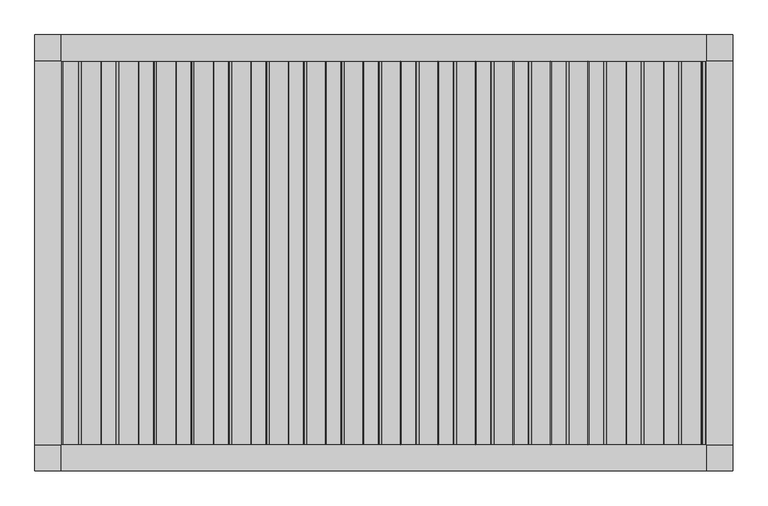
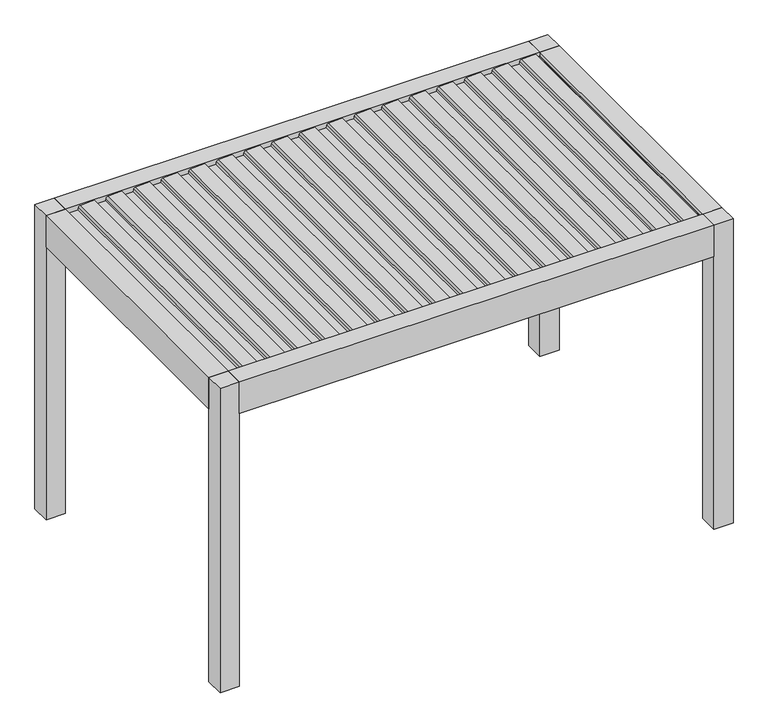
"""IFC4 building model written with IfcOpenShell, lengths in millimetres: proxy geometry, Renson_Camargue_Freestanding_Patio covers : Renson_Camargue_Freestanding_Patio covers."""

from ifc_helpers import new_model, si_unit, point, frame, frame_2d, origin, origin_with_axes, place, context, project, spatial, polyline, circle_curve, trimmed, segment, composite_curve, outline, extrude, source, transform, mapped, element, save


def generic_models_9b0df196(model_context):
    return source(origin(), model_context, "Body", "SweptSolid", [
        extrude(outline(composite_curve([segment(polyline([(2458.35, 1573.7338351), (2486.01198, 1576.1539448), (2487.3970364, 1604.9891952), (2506.8911096, 1601.5518641), (2501.6075693, 1491.5547493)]), True, "CONTINUOUS"), segment(trimmed(circle_curve(frame_2d((2486.6248435, 1492.2744212)), 15.0), [point((2501.6075693, 1491.5547493))], [point((2489.2295662, 1477.5023049))], False, "CARTESIAN"), True, "CONTINUOUS"), segment(polyline([(2489.2295662, 1477.5023049), (2470.0, 1474.1116136), (2470.0, 1386.3758376), (2487.0788237, 1383.3643801), (2486.3450182, 1368.0874097), (2458.35, 1365.6381629), (2458.35, 1573.7338351)]), True, "CONTINUOUS")], self_intersect=False)), frame((0.0, -1100.0, 0.0), z_axis=(0.0, 1.0, 0.0), x_axis=(0.0, 0.0, 1.0)), (0.0, 0.0, 1.0), 2200.0),
        extrude(outline(composite_curve([segment(polyline([(2458.35, 1358.7230303), (2486.01198, 1361.14314), (2487.3970364, 1389.9783904), (2506.8911096, 1386.5410594), (2501.6075693, 1276.5439445)]), True, "CONTINUOUS"), segment(trimmed(circle_curve(frame_2d((2486.6248435, 1277.2636164)), 15.0), [point((2501.6075693, 1276.5439445))], [point((2489.2295662, 1262.4915001))], False, "CARTESIAN"), True, "CONTINUOUS"), segment(polyline([(2489.2295662, 1262.4915001), (2470.0, 1259.1008088), (2470.0, 1171.3650328), (2487.0788237, 1168.3535754), (2486.3450182, 1153.0766049), (2458.35, 1150.6273582), (2458.35, 1358.7230303)]), True, "CONTINUOUS")], self_intersect=False)), frame((0.0, -1100.0, 0.0), z_axis=(0.0, 1.0, 0.0), x_axis=(0.0, 0.0, 1.0)), (0.0, 0.0, 1.0), 2200.0),
        extrude(outline(composite_curve([segment(polyline([(2458.35, 1143.7122255), (2486.01198, 1146.1323352), (2487.3970364, 1174.9675857), (2506.8911096, 1171.5302546), (2501.6075693, 1061.5331397)]), True, "CONTINUOUS"), segment(trimmed(circle_curve(frame_2d((2486.6248435, 1062.2528117)), 15.0), [point((2501.6075693, 1061.5331397))], [point((2489.2295662, 1047.4806954))], False, "CARTESIAN"), True, "CONTINUOUS"), segment(polyline([(2489.2295662, 1047.4806954), (2470.0, 1044.090004), (2470.0, 956.354228), (2487.0788237, 953.3427706), (2486.3450182, 938.0658001), (2458.35, 935.6165534), (2458.35, 1143.7122255)]), True, "CONTINUOUS")], self_intersect=False)), frame((0.0, -1100.0, 0.0), z_axis=(0.0, 1.0, 0.0), x_axis=(0.0, 0.0, 1.0)), (0.0, 0.0, 1.0), 2200.0),
        extrude(outline(composite_curve([segment(polyline([(2458.35, 928.7014208), (2486.01198, 931.1215304), (2487.3970364, 959.9567809), (2506.8911096, 956.5194498), (2501.6075693, 846.5223349)]), True, "CONTINUOUS"), segment(trimmed(circle_curve(frame_2d((2486.6248435, 847.2420069)), 15.0), [point((2501.6075693, 846.5223349))], [point((2489.2295662, 832.4698906))], False, "CARTESIAN"), True, "CONTINUOUS"), segment(polyline([(2489.2295662, 832.4698906), (2470.0, 829.0791992), (2470.0, 741.3434232), (2487.0788237, 738.3319658), (2486.3450182, 723.0549953), (2458.35, 720.6057486), (2458.35, 928.7014208)]), True, "CONTINUOUS")], self_intersect=False)), frame((0.0, -1100.0, 0.0), z_axis=(0.0, 1.0, 0.0), x_axis=(0.0, 0.0, 1.0)), (0.0, 0.0, 1.0), 2200.0),
        extrude(outline(composite_curve([segment(polyline([(2458.35, 713.690616), (2486.01198, 716.1107256), (2487.3970364, 744.9459761), (2506.8911096, 741.508645), (2501.6075693, 631.5115302)]), True, "CONTINUOUS"), segment(trimmed(circle_curve(frame_2d((2486.6248435, 632.2312021)), 15.0), [point((2501.6075693, 631.5115302))], [point((2489.2295662, 617.4590858))], False, "CARTESIAN"), True, "CONTINUOUS"), segment(polyline([(2489.2295662, 617.4590858), (2470.0, 614.0683945), (2470.0, 526.3326184), (2487.0788237, 523.321161), (2486.3450182, 508.0441905), (2458.35, 505.5949438), (2458.35, 713.690616)]), True, "CONTINUOUS")], self_intersect=False)), frame((0.0, -1100.0, 0.0), z_axis=(0.0, 1.0, 0.0), x_axis=(0.0, 0.0, 1.0)), (0.0, 0.0, 1.0), 2200.0),
        extrude(outline(composite_curve([segment(polyline([(2458.35, 498.6798112), (2486.01198, 501.0999209), (2487.3970364, 529.9351713), (2506.8911096, 526.4978402), (2501.6075693, 416.5007254)]), True, "CONTINUOUS"), segment(trimmed(circle_curve(frame_2d((2486.6248435, 417.2203973)), 15.0), [point((2501.6075693, 416.5007254))], [point((2489.2295662, 402.448281))], False, "CARTESIAN"), True, "CONTINUOUS"), segment(polyline([(2489.2295662, 402.448281), (2470.0, 399.0575897), (2470.0, 311.3218136), (2487.0788237, 308.3103562), (2486.3450182, 293.0333858), (2458.35, 290.584139), (2458.35, 498.6798112)]), True, "CONTINUOUS")], self_intersect=False)), frame((0.0, -1100.0, 0.0), z_axis=(0.0, 1.0, 0.0), x_axis=(0.0, 0.0, 1.0)), (0.0, 0.0, 1.0), 2200.0),
        extrude(outline(composite_curve([segment(polyline([(2458.35, 283.6690064), (2486.01198, 286.0891161), (2487.3970364, 314.9243665), (2506.8911096, 311.4870355), (2501.6075693, 201.4899206)]), True, "CONTINUOUS"), segment(trimmed(circle_curve(frame_2d((2486.6248435, 202.2095925)), 15.0), [point((2501.6075693, 201.4899206))], [point((2489.2295662, 187.4374762))], False, "CARTESIAN"), True, "CONTINUOUS"), segment(polyline([(2489.2295662, 187.4374762), (2470.0, 184.0467849), (2470.0, 96.3110089), (2487.0788237, 93.2995515), (2486.3450182, 78.022581), (2458.35, 75.5733343), (2458.35, 283.6690064)]), True, "CONTINUOUS")], self_intersect=False)), frame((0.0, -1100.0, 0.0), z_axis=(0.0, 1.0, 0.0), x_axis=(0.0, 0.0, 1.0)), (0.0, 0.0, 1.0), 2200.0),
        extrude(outline(composite_curve([segment(polyline([(2458.35, 68.6582016), (2486.01198, 71.0783113), (2487.3970364, 99.9135617), (2506.8911096, 96.4762307), (2501.6075693, -13.5208842)]), True, "CONTINUOUS"), segment(trimmed(circle_curve(frame_2d((2486.6248435, -12.8012122)), 15.0), [point((2501.6075693, -13.5208842))], [point((2489.2295662, -27.5733285))], False, "CARTESIAN"), True, "CONTINUOUS"), segment(polyline([(2489.2295662, -27.5733285), (2470.0, -30.9640199), (2470.0, -118.6997959), (2487.0788237, -121.7112533), (2486.3450182, -136.9882238), (2458.35, -139.4374705), (2458.35, 68.6582016)]), True, "CONTINUOUS")], self_intersect=False)), frame((0.0, -1100.0, 0.0), z_axis=(0.0, 1.0, 0.0), x_axis=(0.0, 0.0, 1.0)), (0.0, 0.0, 1.0), 2200.0),
        extrude(outline(composite_curve([segment(polyline([(2458.35, -146.3526032), (2486.01198, -143.9324935), (2487.3970364, -115.097243), (2506.8911096, -118.5345741), (2501.6075693, -228.531689)]), True, "CONTINUOUS"), segment(trimmed(circle_curve(frame_2d((2486.6248435, -227.812017)), 15.0), [point((2501.6075693, -228.531689))], [point((2489.2295662, -242.5841333))], False, "CARTESIAN"), True, "CONTINUOUS"), segment(polyline([(2489.2295662, -242.5841333), (2470.0, -245.9748247), (2470.0, -333.7106007), (2487.0788237, -336.7220581), (2486.3450182, -351.9990286), (2458.35, -354.4482753), (2458.35, -146.3526032)]), True, "CONTINUOUS")], self_intersect=False)), frame((0.0, -1100.0, 0.0), z_axis=(0.0, 1.0, 0.0), x_axis=(0.0, 0.0, 1.0)), (0.0, 0.0, 1.0), 2200.0),
        extrude(outline(composite_curve([segment(polyline([(2458.35, -361.3634079), (2486.01198, -358.9432983), (2487.3970364, -330.1080478), (2506.8911096, -333.5453789), (2501.6075693, -443.5424937)]), True, "CONTINUOUS"), segment(trimmed(circle_curve(frame_2d((2486.6248435, -442.8228218)), 15.0), [point((2501.6075693, -443.5424937))], [point((2489.2295662, -457.5949381))], False, "CARTESIAN"), True, "CONTINUOUS"), segment(polyline([(2489.2295662, -457.5949381), (2470.0, -460.9856294), (2470.0, -548.7214055), (2487.0788237, -551.7328629), (2486.3450182, -567.0098334), (2458.35, -569.4590801), (2458.35, -361.3634079)]), True, "CONTINUOUS")], self_intersect=False)), frame((0.0, -1100.0, 0.0), z_axis=(0.0, 1.0, 0.0), x_axis=(0.0, 0.0, 1.0)), (0.0, 0.0, 1.0), 2200.0),
        extrude(outline(composite_curve([segment(polyline([(2458.35, -576.3742127), (2486.01198, -573.9541031), (2487.3970364, -545.1188526), (2506.8911096, -548.5561837), (2501.6075693, -658.5532985)]), True, "CONTINUOUS"), segment(trimmed(circle_curve(frame_2d((2486.6248435, -657.8336266)), 15.0), [point((2501.6075693, -658.5532985))], [point((2489.2295662, -672.6057429))], False, "CARTESIAN"), True, "CONTINUOUS"), segment(polyline([(2489.2295662, -672.6057429), (2470.0, -675.9964342), (2470.0, -763.7322103), (2487.0788237, -766.7436677), (2486.3450182, -782.0206381), (2458.35, -784.4698849), (2458.35, -576.3742127)]), True, "CONTINUOUS")], self_intersect=False)), frame((0.0, -1100.0, 0.0), z_axis=(0.0, 1.0, 0.0), x_axis=(0.0, 0.0, 1.0)), (0.0, 0.0, 1.0), 2200.0),
        extrude(outline(composite_curve([segment(polyline([(2458.35, -791.3850175), (2486.01198, -788.9649078), (2487.3970364, -760.1296574), (2506.8911096, -763.5669885), (2501.6075693, -873.5641033)]), True, "CONTINUOUS"), segment(trimmed(circle_curve(frame_2d((2486.6248435, -872.8444314)), 15.0), [point((2501.6075693, -873.5641033))], [point((2489.2295662, -887.6165477))], False, "CARTESIAN"), True, "CONTINUOUS"), segment(polyline([(2489.2295662, -887.6165477), (2470.0, -891.007239), (2470.0, -978.743015), (2487.0788237, -981.7544725), (2486.3450182, -997.0314429), (2458.35, -999.4806897), (2458.35, -791.3850175)]), True, "CONTINUOUS")], self_intersect=False)), frame((0.0, -1100.0, 0.0), z_axis=(0.0, 1.0, 0.0), x_axis=(0.0, 0.0, 1.0)), (0.0, 0.0, 1.0), 2200.0),
        extrude(outline(composite_curve([segment(polyline([(2458.35, -1006.3958223), (2486.01198, -1003.9757126), (2487.3970364, -975.1404622), (2506.8911096, -978.5777932), (2501.6075693, -1088.5749081)]), True, "CONTINUOUS"), segment(trimmed(circle_curve(frame_2d((2486.6248435, -1087.8552362)), 15.0), [point((2501.6075693, -1088.5749081))], [point((2489.2295662, -1102.6273525))], False, "CARTESIAN"), True, "CONTINUOUS"), segment(polyline([(2489.2295662, -1102.6273525), (2470.0, -1106.0180438), (2470.0, -1193.7538198), (2487.0788237, -1196.7652772), (2486.3450182, -1212.0422477), (2458.35, -1214.4914944), (2458.35, -1006.3958223)]), True, "CONTINUOUS")], self_intersect=False)), frame((0.0, -1100.0, 0.0), z_axis=(0.0, 1.0, 0.0), x_axis=(0.0, 0.0, 1.0)), (0.0, 0.0, 1.0), 2200.0),
        extrude(outline(composite_curve([segment(polyline([(2458.35, -1221.4066271), (2486.01198, -1218.9865174), (2487.3970364, -1190.1512669), (2506.8911096, -1193.588598), (2501.6075693, -1303.5857129)]), True, "CONTINUOUS"), segment(trimmed(circle_curve(frame_2d((2486.6248435, -1302.8660409)), 15.0), [point((2501.6075693, -1303.5857129))], [point((2489.2295662, -1317.6381572))], False, "CARTESIAN"), True, "CONTINUOUS"), segment(polyline([(2489.2295662, -1317.6381572), (2470.0, -1321.0288486), (2470.0, -1408.7646246), (2487.0788237, -1411.776082), (2486.3450182, -1427.0530525), (2458.35, -1429.5022992), (2458.35, -1221.4066271)]), True, "CONTINUOUS")], self_intersect=False)), frame((0.0, -1100.0, 0.0), z_axis=(0.0, 1.0, 0.0), x_axis=(0.0, 0.0, 1.0)), (0.0, 0.0, 1.0), 2200.0),
        extrude(outline(composite_curve([segment(polyline([(2458.35, -1436.4174318), (2486.01198, -1433.9973222), (2487.3970364, -1405.1620717), (2506.8911096, -1408.5994028), (2501.6075693, -1518.5965176)]), True, "CONTINUOUS"), segment(trimmed(circle_curve(frame_2d((2486.6248435, -1517.8768457)), 15.0), [point((2501.6075693, -1518.5965176))], [point((2489.2295662, -1532.648962))], False, "CARTESIAN"), True, "CONTINUOUS"), segment(polyline([(2489.2295662, -1532.648962), (2470.0, -1536.0396534), (2470.0, -1623.7754294), (2487.0788237, -1626.7868868), (2486.3450182, -1642.0638573), (2458.35, -1644.513104), (2458.35, -1436.4174318)]), True, "CONTINUOUS")], self_intersect=False)), frame((0.0, -1100.0, 0.0), z_axis=(0.0, 1.0, 0.0), x_axis=(0.0, 0.0, 1.0)), (0.0, 0.0, 1.0), 2200.0),
        extrude(outline(composite_curve([segment(polyline([(2458.35, 1788.7446399), (2486.01198, 1791.1647495), (2487.3970364, 1820.0), (2506.8911096, 1816.5626689), (2501.6075693, 1706.5655541)]), True, "CONTINUOUS"), segment(trimmed(circle_curve(frame_2d((2486.6248435, 1707.285226)), 15.0), [point((2501.6075693, 1706.5655541))], [point((2489.2295662, 1692.5131097))], False, "CARTESIAN"), True, "CONTINUOUS"), segment(polyline([(2489.2295662, 1692.5131097), (2470.0, 1689.1224184), (2470.0, 1601.3866423), (2487.0788237, 1598.3751849), (2486.3450182, 1583.0982144), (2458.35, 1580.6489677), (2458.35, 1788.7446399)]), True, "CONTINUOUS")], self_intersect=False)), frame((0.0, -1100.0, 0.0), z_axis=(0.0, 1.0, 0.0), x_axis=(0.0, 0.0, 1.0)), (0.0, 0.0, 1.0), 2200.0),
        extrude(outline(composite_curve([segment(polyline([(2458.35, -1651.4282366), (2486.01198, -1649.008127), (2487.3970364, -1620.1728765), (2506.8911096, -1623.6102076), (2501.6075693, -1733.6073224)]), True, "CONTINUOUS"), segment(trimmed(circle_curve(frame_2d((2486.6248435, -1732.8876505)), 15.0), [point((2501.6075693, -1733.6073224))], [point((2489.2295662, -1747.6597668))], False, "CARTESIAN"), True, "CONTINUOUS"), segment(polyline([(2489.2295662, -1747.6597668), (2470.0, -1751.0504581), (2470.0, -1838.7862342), (2487.0788237, -1841.7976916), (2486.3450182, -1857.0746621), (2458.35, -1859.5239088), (2458.35, -1651.4282366)]), True, "CONTINUOUS")], self_intersect=False)), frame((0.0, -1100.0, 0.0), z_axis=(0.0, 1.0, 0.0), x_axis=(0.0, 0.0, 1.0)), (0.0, 0.0, 1.0), 2200.0),
        extrude(outline(polyline([(2441.6559373, -1850.0), (2441.6559373, -1824.0), (2455.6555802, -1820.2487113), (2455.6555802, -1829.5940945), (2471.400763, -1845.0), (2479.2449277, -1845.0), (2479.6823598, -1850.0), (2441.6559373, -1850.0)])), frame((0.0, -1100.0, 0.0), z_axis=(0.0, 1.0, 0.0), x_axis=(0.0, 0.0, 1.0)), (0.0, 0.0, 1.0), 2200.0),
        extrude(outline(polyline([(-1850.0, -1100.0), (-2000.0, -1100.0), (-2000.0, 1100.0), (-1850.0, 1100.0), (-1850.0, -1100.0)])), frame((0.0, 0.0, 2250.0), z_axis=(0.0, 0.0, 1.0), x_axis=(1.0, 0.0, 0.0)), (0.0, 0.0, 1.0), 260.0),
        extrude(outline(polyline([(2510.0, 2000.0), (2510.0, 1850.0), (2479.6904658, 1850.0), (2479.2449277, 1845.0), (2471.400763, 1845.0), (2455.6555802, 1829.2544156), (2455.6555802, 1819.9090324), (2441.6559373, 1823.6603211), (2441.6559373, 1850.0), (2250.0, 1850.0), (2250.0, 2000.0), (2510.0, 2000.0)])), frame((0.0, -1100.0, 0.0), z_axis=(0.0, 1.0, 0.0), x_axis=(0.0, 0.0, 1.0)), (0.0, 0.0, 1.0), 2200.0),
        extrude(outline(polyline([(-1100.0, 2510.0), (-1100.0, 2322.0), (-1030.0000001, 2322.0), (-1030.0000001, 2250.0), (-1250.0, 2250.0), (-1250.0, 2510.0), (-1100.0, 2510.0)])), frame((-1850.0, 0.0, 0.0), z_axis=(1.0, 0.0, 0.0), x_axis=(0.0, 1.0, 0.0)), (0.0, 0.0, 1.0), 3700.0),
        extrude(outline(polyline([(1250.0, 2250.0), (1030.0000001, 2250.0), (1030.0000001, 2322.0), (1100.0, 2322.0), (1100.0, 2510.0), (1250.0, 2510.0), (1250.0, 2250.0)])), frame((-1850.0, 0.0, 0.0), z_axis=(1.0, 0.0, 0.0), x_axis=(0.0, 1.0, 0.0)), (0.0, 0.0, 1.0), 3700.0),
        extrude(outline(polyline([(-1850.0, 1250.0), (-1850.0, 1100.0), (-2000.0, 1100.0), (-2000.0, 1250.0), (-1850.0, 1250.0)])), origin_with_axes(), (0.0, 0.0, 1.0), 2510.0),
        extrude(outline(polyline([(2000.0, 1250.0), (2000.0, 1100.0), (1850.0, 1100.0), (1850.0, 1250.0), (2000.0, 1250.0)])), origin_with_axes(), (0.0, 0.0, 1.0), 2510.0),
        extrude(outline(polyline([(2000.0, -1100.0), (2000.0, -1250.0), (1850.0, -1250.0), (1850.0, -1100.0), (2000.0, -1100.0)])), origin_with_axes(), (0.0, 0.0, 1.0), 2510.0),
        extrude(outline(polyline([(-1850.0, -1100.0), (-1850.0, -1250.0), (-2000.0, -1250.0), (-2000.0, -1100.0), (-1850.0, -1100.0)])), origin_with_axes(), (0.0, 0.0, 1.0), 2510.0),
    ])


if __name__ == "__main__":
    model = new_model("IFC4")
    model_context = context("Model", 3, world=origin())
    ifc_project = project(units=[si_unit("LENGTHUNIT", "METRE", prefix="MILLI")], contexts=[model_context])
    site = spatial("IfcSite", under=ifc_project)
    building = spatial("IfcBuilding", under=site)
    placement = place(None, origin())
    generic_models_shape = generic_models_9b0df196(model_context)
    element("IfcBuildingElementProxy", 1, Name="Renson_Camargue_Freestanding_Patio covers : Renson_Camargue_Freestanding_Patio covers", ObjectType="Renson_Camargue_Freestanding_Patio covers : Renson_Camargue_Freestanding_Patio covers", at=placement, inside=building, context=model_context, shape_type="MappedRepresentation", body=[
        mapped(generic_models_shape, transform((0.0, 0.0, 0.0), x_axis=(1.0, 0.0, 0.0), y_axis=(0.0, 1.0, 0.0), z_axis=(0.0, 0.0, 1.0))),
    ])
    save(model, "model.ifc")
